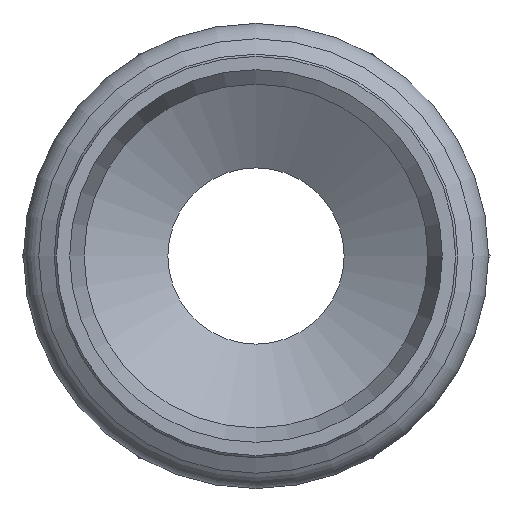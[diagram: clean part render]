
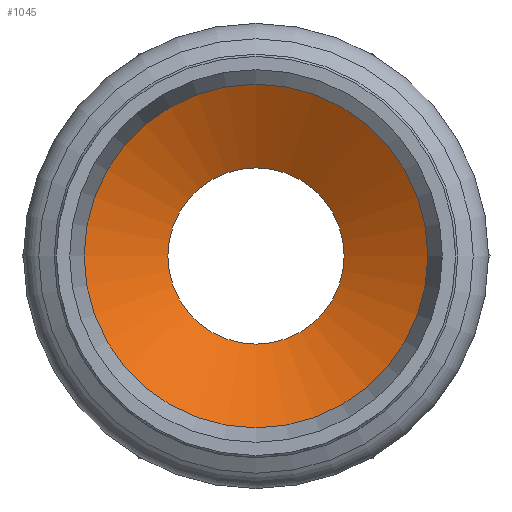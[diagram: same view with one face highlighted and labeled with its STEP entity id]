
A CAD part, left-side view. The second image highlights one B-rep face of the part: STEP entity #1045.
In plain terms, the highlighted free-form (B-spline) face has degree [1, 2] with [2, 9] control points.
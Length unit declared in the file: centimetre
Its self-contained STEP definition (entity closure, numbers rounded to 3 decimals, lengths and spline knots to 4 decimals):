
#761=CARTESIAN_POINT('',(-10.0,0.,-16.5152));
#762=VERTEX_POINT('',#761);
#763=CARTESIAN_POINT('',(0.0,0.0,-16.5152));
#764=DIRECTION('',(0.0,0.0,1.0));
#765=DIRECTION('',(1.0,0.0,0.0));
#766=AXIS2_PLACEMENT_3D('',#763,#764,#765);
#767=CIRCLE('',#766,10.0);
#768=EDGE_CURVE('',#762,#762,#767,.T.);
#1005=CARTESIAN_POINT('',(19.5,0.,-22.0));
#1006=CARTESIAN_POINT('',(10.,0.,-16.5152));
#1007=CARTESIAN_POINT('',(19.5,-19.5,-22.0));
#1008=CARTESIAN_POINT('',(10.,-10.,-16.5152));
#1009=CARTESIAN_POINT('',(0.,-19.5,-22.0));
#1010=CARTESIAN_POINT('',(0.,-10.,-16.5152));
#1011=CARTESIAN_POINT('',(-19.5,-19.5,-22.0));
#1012=CARTESIAN_POINT('',(-10.,-10.,-16.5152));
#1013=CARTESIAN_POINT('',(-19.5,0.,-22.0));
#1014=CARTESIAN_POINT('',(-10.,0.,-16.5152));
#1015=CARTESIAN_POINT('',(-19.5,19.5,-22.0));
#1016=CARTESIAN_POINT('',(-10.,10.,-16.5152));
#1017=CARTESIAN_POINT('',(0.,19.5,-22.0));
#1018=CARTESIAN_POINT('',(0.,10.,-16.5152));
#1019=CARTESIAN_POINT('',(19.5,19.5,-22.0));
#1020=CARTESIAN_POINT('',(10.,10.,-16.5152));
#1021=CARTESIAN_POINT('',(19.5,0.,-22.0));
#1022=CARTESIAN_POINT('',(10.,0.,-16.5152));
#1030=(BOUNDED_SURFACE()B_SPLINE_SURFACE(1,2,((#1005,#1007,#1009,#1011,#1013,#1015,#1017,#1019,#1021),(#1006,#1008,#1010,#1012,#1014,#1016,#1018,#1020,#1022)),.UNSPECIFIED.,.F.,.T.,.U.)B_SPLINE_SURFACE_WITH_KNOTS((2,2),(3,2,2,2,3),(-1.1547,-0.0296),(0.0,15.3153,30.6305,45.9458,61.2611),.UNSPECIFIED.)GEOMETRIC_REPRESENTATION_ITEM()RATIONAL_B_SPLINE_SURFACE(((1.0,0.707,1.0,0.707,1.0,0.707,1.0,0.707,1.0),(1.0,0.707,1.0,0.707,1.0,0.707,1.0,0.707,1.0)))REPRESENTATION_ITEM('')SURFACE());
#1031=ORIENTED_EDGE('',*,*,#768,.T.);
#1032=EDGE_LOOP('',(#1031));
#1033=FACE_OUTER_BOUND('',#1032,.T.);
#1034=CARTESIAN_POINT('',(-19.5,0.0,-22.0));
#1035=VERTEX_POINT('',#1034);
#1036=CARTESIAN_POINT('',(0.0,0.0,-22.0));
#1037=DIRECTION('',(0.0,0.0,-1.0));
#1038=DIRECTION('',(-1.0,0.0,0.0));
#1039=AXIS2_PLACEMENT_3D('',#1036,#1037,#1038);
#1040=CIRCLE('',#1039,19.5);
#1041=EDGE_CURVE('',#1035,#1035,#1040,.T.);
#1042=ORIENTED_EDGE('',*,*,#1041,.T.);
#1043=EDGE_LOOP('',(#1042));
#1044=FACE_BOUND('',#1043,.T.);
#1045=ADVANCED_FACE('',(#1033,#1044),#1030,.F.);
